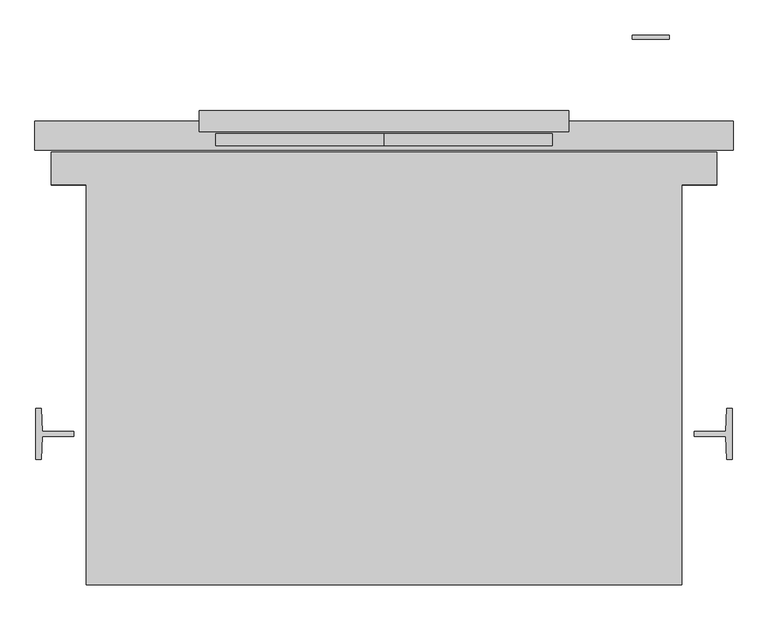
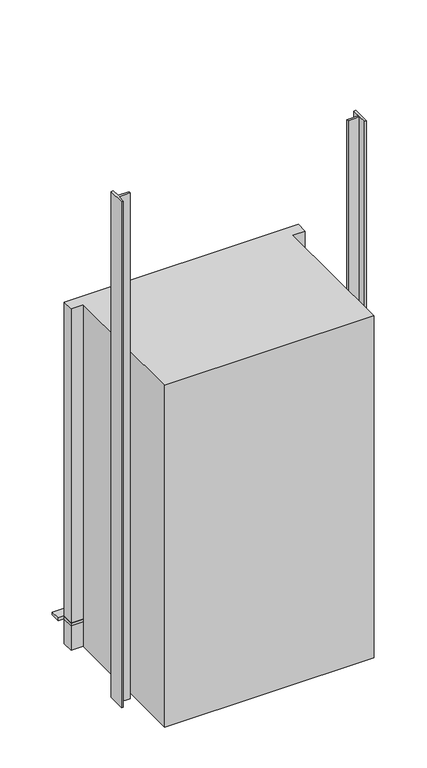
"""IFC4 building model written with IfcOpenShell, lengths in millimetres: proxy geometry, エレベーター_ガラス扉 : 6人乗."""

import ifcopenshell
import ifcopenshell.guid

model = None  # the IFC model being written
_history = None  # IfcOwnerHistory: only IFC2X3 demands one
_inside = {}  # id of a spatial element -> (the spatial element, [elements in it])
_under = {}  # id of a project, library or spatial element -> (it, [spatial elements below it])
_declared = {}  # id of a project -> (the project, [libraries it declares])
_typed = {}  # id of a type object -> (the type object, [elements of that type])
_made_of = {}  # id of a material, layer set ... -> (it, [elements and type objects made of it])


def new_model(schema):
    """Start an empty IFC model of exactly this schema.

    Asked for "IFC4X3", IfcOpenShell would pick the latest addendum, in which some entities
    have other attributes; the version numbers below select the first issue.
    IFC2X3 requires an IfcOwnerHistory on every rooted entity: one is made here for all.
    """
    global model, _history
    if schema == "IFC4X3":
        model = ifcopenshell.file(schema_version=(4, 3, 0, 0))
    else:
        model = ifcopenshell.file(schema=schema)
    _inside.clear()
    _under.clear()
    _declared.clear()
    _typed.clear()
    _made_of.clear()
    _history = None
    if model.schema == "IFC2X3":
        org = make("IfcOrganization", Name="unknown")
        user = make(
            "IfcPersonAndOrganization",
            ThePerson=make("IfcPerson", FamilyName="unknown"),
            TheOrganization=org,
        )
        app = make(
            "IfcApplication",
            ApplicationDeveloper=org,
            Version="unknown",
            ApplicationFullName="unknown",
            ApplicationIdentifier="unknown",
        )
        _history = make(
            "IfcOwnerHistory",
            OwningUser=user,
            OwningApplication=app,
            ChangeAction="ADDED",
            CreationDate=0,
        )
    return model


def make(cls, **values):
    """One entity of the class cls with the attributes given. An attribute that is None is left unset."""
    return model.create_entity(
        cls, **{name: value for name, value in values.items() if value is not None}
    )


def rooted(cls, **values):
    """An entity with a GlobalId (a new one), such as an element, a storey or a relation."""
    return make(cls, GlobalId=ifcopenshell.guid.new(), OwnerHistory=_history, **values)


def si_unit(unit_type, name, prefix=None):
    """IfcSIUnit, for example si_unit("LENGTHUNIT", "METRE", prefix="MILLI")."""
    return make("IfcSIUnit", UnitType=unit_type, Prefix=prefix, Name=name)


def assignment(units):
    """IfcUnitAssignment: the units of a project."""
    return None if units is None else make("IfcUnitAssignment", Units=units)


def point(xyz):
    """IfcCartesianPoint."""
    return None if xyz is None else make("IfcCartesianPoint", Coordinates=xyz)


def direction(xyz):
    """IfcDirection."""
    return None if xyz is None else make("IfcDirection", DirectionRatios=xyz)


def frame(location, z_axis=None, x_axis=None):
    """IfcAxis2Placement3D, a coordinate frame: its origin and axes. An axis left out is left unset."""
    return make(
        "IfcAxis2Placement3D",
        Location=point(location),
        Axis=direction(z_axis),
        RefDirection=direction(x_axis),
    )


def frame_2d(location, x_axis=None):
    """IfcAxis2Placement2D, a coordinate frame in the plane: its origin and x axis."""
    return make(
        "IfcAxis2Placement2D", Location=point(location), RefDirection=direction(x_axis)
    )


def origin():
    """The frame at (0, 0, 0) with its axes left unset."""
    return frame((0.0, 0.0, 0.0))


def origin_with_axes():
    """The frame at (0, 0, 0) with the z axis (0, 0, 1) and the x axis (1, 0, 0) written out."""
    return frame((0.0, 0.0, 0.0), z_axis=(0.0, 0.0, 1.0), x_axis=(1.0, 0.0, 0.0))


def place(relative_to, where):
    """IfcLocalPlacement: puts the frame where relative to a parent placement (None: the world)."""
    return make(
        "IfcLocalPlacement", PlacementRelTo=relative_to, RelativePlacement=where
    )


def context(
    kind, dimensions, precision=None, world=None, true_north=None, identifier=None
):
    """IfcGeometricRepresentationContext, for example the 3D "Model" context."""
    return make(
        "IfcGeometricRepresentationContext",
        ContextIdentifier=identifier,
        ContextType=kind,
        CoordinateSpaceDimension=dimensions,
        Precision=precision,
        WorldCoordinateSystem=world,
        TrueNorth=true_north,
    )


def project(units=None, contexts=None):
    """IfcProject with its units and contexts."""
    return rooted(
        "IfcProject",
        Name="project",
        RepresentationContexts=contexts,
        UnitsInContext=assignment(units),
    )


def spatial(cls, under=None, at=None, **own):
    """A site, building, storey or space (cls), placed at a placement, below another one or the project."""
    s = rooted(cls, ObjectPlacement=at, **own)
    if under is not None:
        _under.setdefault(under.id(), (under, []))[1].append(s)
    return s


def polyline(points):
    """IfcPolyline through the points."""
    return make("IfcPolyline", Points=[point(p) for p in points])


def circle_curve(where, radius):
    """IfcCircle in the frame where."""
    return make("IfcCircle", Position=where, Radius=radius)


def trimmed(basis, trim1, trim2, sense, master):
    """IfcTrimmedCurve: the piece of a basis curve between two trims."""
    return make(
        "IfcTrimmedCurve",
        BasisCurve=basis,
        Trim1=trim1,
        Trim2=trim2,
        SenseAgreement=sense,
        MasterRepresentation=master,
    )


def segment(curve, same_sense, transition):
    """IfcCompositeCurveSegment."""
    return make(
        "IfcCompositeCurveSegment",
        Transition=transition,
        SameSense=same_sense,
        ParentCurve=curve,
    )


def composite_curve(segments, self_intersect=None):
    """IfcCompositeCurve: segments joined end to end."""
    return make("IfcCompositeCurve", Segments=segments, SelfIntersect=self_intersect)


def outline(outer, holes=None, kind="AREA"):
    """IfcArbitraryClosedProfileDef: a profile drawn as a closed curve; with holes, ...WithVoids."""
    if holes is None:
        return make("IfcArbitraryClosedProfileDef", ProfileType=kind, OuterCurve=outer)
    return make(
        "IfcArbitraryProfileDefWithVoids",
        ProfileType=kind,
        OuterCurve=outer,
        InnerCurves=holes,
    )


def extrude(swept, where, along, depth):
    """IfcExtrudedAreaSolid: the profile swept, set in the frame where, extruded along a direction by depth."""
    return make(
        "IfcExtrudedAreaSolid",
        SweptArea=swept,
        Position=where,
        ExtrudedDirection=direction(along),
        Depth=depth,
    )


def faces_of(points, faces, orient=None, outer=None):
    """IfcFace entities. A face is a list of loops; a loop is a list of indices into points, from 0.

    orient and outer hold one flag for each loop. By default every Orientation is true, the
    first loop of a face is its IfcFaceOuterBound and the others are IfcFaceBound.
    """
    made = []
    for i, loops in enumerate(faces):
        bounds = []
        for j, loop in enumerate(loops):
            is_outer = j == 0 if outer is None else outer[i][j]
            bounds.append(
                make(
                    "IfcFaceOuterBound" if is_outer else "IfcFaceBound",
                    Bound=make("IfcPolyLoop", Polygon=[points[k] for k in loop]),
                    Orientation=True if orient is None else orient[i][j],
                )
            )
        made.append(make("IfcFace", Bounds=bounds))
    return made


def faceted_brep(points, faces, orient=None, outer=None, voids=None):
    """IfcFacetedBrep: a solid bounded by flat faces; with voids (closed shells), ...WithVoids."""
    shared = [point(p) for p in points]
    hull = make("IfcClosedShell", CfsFaces=faces_of(shared, faces, orient, outer))
    if voids is None:
        return make("IfcFacetedBrep", Outer=hull)
    return make(
        "IfcFacetedBrepWithVoids",
        Outer=hull,
        Voids=[
            make(cls, CfsFaces=faces_of(shared, fs, o, b)) for cls, fs, o, b in voids
        ],
    )


def shape(context_of_items, identifier, shape_type, items):
    """IfcShapeRepresentation: the items that make up one representation, for example the "Body"."""
    return make(
        "IfcShapeRepresentation",
        ContextOfItems=context_of_items,
        RepresentationIdentifier=identifier,
        RepresentationType=shape_type,
        Items=items,
    )


def source(mapping_origin, context_of_items, identifier, shape_type, items):
    """IfcRepresentationMap: a shape defined once, which mapped items show again and again."""
    return make(
        "IfcRepresentationMap",
        MappingOrigin=mapping_origin,
        MappedRepresentation=shape(context_of_items, identifier, shape_type, items),
    )


def transform(
    local_origin,
    x_axis=None,
    y_axis=None,
    z_axis=None,
    scale=None,
    scale2=None,
    scale3=None,
    uniform=True,
):
    """IfcCartesianTransformationOperator3D, or its non-uniform kind. x_axis, y_axis, z_axis: its Axis1, 2, 3."""
    if uniform:
        return make(
            "IfcCartesianTransformationOperator3D",
            Axis1=direction(x_axis),
            Axis2=direction(y_axis),
            LocalOrigin=point(local_origin),
            Scale=scale,
            Axis3=direction(z_axis),
        )
    return make(
        "IfcCartesianTransformationOperator3DnonUniform",
        Axis1=direction(x_axis),
        Axis2=direction(y_axis),
        LocalOrigin=point(local_origin),
        Scale=scale,
        Axis3=direction(z_axis),
        Scale2=scale2,
        Scale3=scale3,
    )


def mapped(mapping_source, mapping_target):
    """IfcMappedItem: shows the shape of a source again, moved by a transform."""
    return make(
        "IfcMappedItem", MappingSource=mapping_source, MappingTarget=mapping_target
    )


def made_of(thing, what):
    """Note that an element or type object is made of a material, layer set ...; save() writes the relation."""
    if what is not None:
        _made_of.setdefault(what.id(), (what, []))[1].append(thing)
    return thing


def element(
    cls,
    number,
    at=None,
    inside=None,
    cuts=None,
    type_object=None,
    material=None,
    context=None,
    identifier="Body",
    shape_type=None,
    held_by="IfcProductDefinitionShape",
    body=None,
    shapes=None,
    **own,
):
    """One element of the class cls, such as IfcWall. Its Tag is "e" and its number.

    at: its placement. inside: the storey or other place that contains it. cuts: it is an
    opening in that element (IfcRelVoidsElement). A single representation is given by context,
    identifier, shape_type and body (its items); several are given by shapes. held_by: the class
    of the entity that holds the representations. save() writes the other relations.
    """
    e = rooted(cls, Tag="e%d" % number, ObjectPlacement=at, **own)
    if body is not None:
        shapes = [shape(context, identifier, shape_type, body)]
    if shapes is not None:
        e.Representation = make(held_by, Representations=shapes)
    if inside is not None:
        _inside.setdefault(inside.id(), (inside, []))[1].append(e)
    if cuts is not None:
        rooted(
            "IfcRelVoidsElement", RelatingBuildingElement=cuts, RelatedOpeningElement=e
        )
    if type_object is not None:
        _typed.setdefault(type_object.id(), (type_object, []))[1].append(e)
    return made_of(e, material)


def aggregate(whole, parts):
    """IfcRelAggregates: a whole, such as a stair, and the parts it consists of."""
    return rooted("IfcRelAggregates", RelatingObject=whole, RelatedObjects=parts)


def save(model, path):
    """Write the relations noted so far, then the file.

    IfcRelAggregates (storeys below a building ...), IfcRelContainedInSpatialStructure (elements
    in a storey), IfcRelDefinesByType, IfcRelAssociatesMaterial and IfcRelDeclares: one each for
    every whole, place, type object, material and project.
    """
    for whole, parts in _under.values():
        aggregate(whole, parts)
    for where, things in _inside.values():
        rooted(
            "IfcRelContainedInSpatialStructure",
            RelatedElements=things,
            RelatingStructure=where,
        )
    for kind, things in _typed.values():
        rooted("IfcRelDefinesByType", RelatedObjects=things, RelatingType=kind)
    for what, things in _made_of.values():
        rooted("IfcRelAssociatesMaterial", RelatedObjects=things, RelatingMaterial=what)
    for by, libraries in _declared.values():
        rooted("IfcRelDeclares", RelatingContext=by, RelatedDefinitions=libraries)
    model.write(path)


def specialty_equipment_c2b478e0(model_context):
    return source(origin(), model_context, "Body", "SolidModel", [
        extrude(outline(composite_curve([segment(polyline([(1430.0, 750.0), (1225.0, 750.0)]), True, "CONTINUOUS"), segment(trimmed(circle_curve(frame_2d((1225.0, 775.0)), 25.0), [point((1225.0, 750.0))], [point((1225.0, 800.0))], False, "CARTESIAN"), True, "CONTINUOUS"), segment(polyline([(1225.0, 800.0), (1430.0, 800.0), (1430.0, 750.0)]), True, "CONTINUOUS")], self_intersect=False)), frame((0.0, 100.0, 0.0), z_axis=(0.0, 1.0, 0.0), x_axis=(0.0, 0.0, 1.0)), (0.0, 0.0, 1.0), 10.0),
        extrude(outline(polyline([(790.0, 110.0), (790.0, 100.0), (760.0, 100.0), (760.0, 110.0), (790.0, 110.0)])), frame((0.0, 0.0, 1120.0), z_axis=(0.0, 0.0, 1.0), x_axis=(1.0, 0.0, 0.0)), (0.0, 0.0, 1.0), 30.0),
        extrude(outline(polyline([(790.0, 110.0), (790.0, 100.0), (760.0, 100.0), (760.0, 110.0), (790.0, 110.0)])), frame((0.0, 0.0, 1060.0), z_axis=(0.0, 0.0, 1.0), x_axis=(1.0, 0.0, 0.0)), (0.0, 0.0, 1.0), 30.0),
        extrude(outline(composite_curve([segment(polyline([(970.0, 730.0), (970.0, 820.0), (1430.0, 820.0), (1430.0, 800.0), (1225.0, 800.0)]), True, "CONTINUOUS"), segment(trimmed(circle_curve(frame_2d((1225.0, 775.0)), 25.0), [point((1225.0, 800.0))], [point((1225.0, 750.0))], True, "CARTESIAN"), True, "CONTINUOUS"), segment(polyline([(1225.0, 750.0), (1430.0, 750.0), (1430.0, 730.0), (970.0, 730.0)]), True, "CONTINUOUS")], self_intersect=False), holes=[polyline([(1150.0, 760.0), (1150.0, 790.0), (1120.0, 790.0), (1120.0, 760.0), (1150.0, 760.0)]), polyline([(1090.0, 760.0), (1090.0, 790.0), (1060.0, 790.0), (1060.0, 760.0), (1090.0, 760.0)])]), frame((0.0, 100.0, 0.0), z_axis=(0.0, 1.0, 0.0), x_axis=(0.0, 0.0, 1.0)), (0.0, 0.0, 1.0), 10.0),
        extrude(outline(polyline([(820.0, 110.0), (820.0, 100.0), (730.0, 100.0), (730.0, 110.0), (820.0, 110.0)])), frame((0.0, 0.0, 1430.0), z_axis=(0.0, 0.0, 1.0), x_axis=(1.0, 0.0, 0.0)), (0.0, 0.0, 1.0), 20.0),
        extrude(outline(polyline([(820.0, 110.0), (820.0, 100.0), (730.0, 100.0), (730.0, 110.0), (820.0, 110.0)])), frame((0.0, 0.0, 950.0), z_axis=(0.0, 0.0, 1.0), x_axis=(1.0, 0.0, 0.0)), (0.0, 0.0, 1.0), 20.0),
        extrude(outline(polyline([(25.0, -142.5), (25.0, -147.5), (-175.0, -147.5), (-175.0, -142.5), (25.0, -142.5)])), frame((0.0, 0.0, 1000.0), z_axis=(0.0, 0.0, 1.0), x_axis=(1.0, 0.0, 0.0)), (0.0, 0.0, 1.0), 900.0),
        extrude(outline(polyline([(225.0, -147.5), (225.0, -142.5), (425.0, -142.5), (425.0, -147.5), (225.0, -147.5)])), frame((0.0, 0.0, 1000.0), z_axis=(0.0, 0.0, 1.0), x_axis=(1.0, 0.0, 0.0)), (0.0, 0.0, 1.0), 900.0),
        extrude(outline(polyline([(-175.0, -237.5), (-175.0, -232.5), (25.0, -232.5), (25.0, -237.5), (-175.0, -237.5)])), frame((0.0, 0.0, 1000.0), z_axis=(0.0, 0.0, 1.0), x_axis=(1.0, 0.0, 0.0)), (0.0, 0.0, 1.0), 900.0),
        extrude(outline(polyline([(425.0, -232.5), (425.0, -237.5), (225.0, -237.5), (225.0, -232.5), (425.0, -232.5)])), frame((0.0, 0.0, 1000.0), z_axis=(0.0, 0.0, 1.0), x_axis=(1.0, 0.0, 0.0)), (0.0, 0.0, 1.0), 900.0),
        extrude(outline(polyline([(-685.0, -255.0), (-685.0, -175.0), (935.0, -175.0), (935.0, -255.0), (-685.0, -255.0)])), frame((0.0, 0.0, -20.0), z_axis=(0.0, 0.0, 1.0), x_axis=(1.0, 0.0, 0.0)), (0.0, 0.0, 1.0), 20.0),
        extrude(outline(polyline([(975.0, -170.0), (-725.0, -170.0), (-725.0, -100.0), (975.0, -100.0), (975.0, -170.0)])), frame((0.0, 0.0, -20.0), z_axis=(0.0, 0.0, 1.0), x_axis=(1.0, 0.0, 0.0)), (0.0, 0.0, 1.0), 20.0),
        extrude(outline(polyline([(2125.0, 125.5), (0.0, 125.5), (0.0, 535.0), (2125.0, 535.0), (2125.0, 125.5)]), holes=[polyline([(1900.0, 425.0), (1000.0, 425.0), (1000.0, 225.0), (1900.0, 225.0), (1900.0, 425.0)])]), frame((0.0, -160.0, 0.0), z_axis=(0.0, 1.0, 0.0), x_axis=(0.0, 0.0, 1.0)), (0.0, 0.0, 1.0), 30.0),
        extrude(outline(polyline([(2125.0, -285.0), (0.0, -285.0), (0.0, 124.5), (2125.0, 124.5), (2125.0, -285.0)]), holes=[polyline([(1900.0, 25.0), (1000.0, 25.0), (1000.0, -175.0), (1900.0, -175.0), (1900.0, 25.0)])]), frame((0.0, -160.0, 0.0), z_axis=(0.0, 1.0, 0.0), x_axis=(0.0, 0.0, 1.0)), (0.0, 0.0, 1.0), 30.0),
        extrude(outline(polyline([(2125.0, -285.0), (0.0, -285.0), (0.0, 124.5), (2125.0, 124.5), (2125.0, -285.0)]), holes=[polyline([(1900.0, 25.0), (1000.0, 25.0), (1000.0, -175.0), (1900.0, -175.0), (1900.0, 25.0)])]), frame((0.0, -250.0, 0.0), z_axis=(0.0, 1.0, 0.0), x_axis=(0.0, 0.0, 1.0)), (0.0, 0.0, 1.0), 30.0),
        extrude(outline(polyline([(2125.0, 125.5), (0.0, 125.5), (0.0, 535.0), (2125.0, 535.0), (2125.0, 125.5)]), holes=[polyline([(1900.0, 425.0), (1000.0, 425.0), (1000.0, 225.0), (1900.0, 225.0), (1900.0, 425.0)])]), frame((0.0, -250.0, 0.0), z_axis=(0.0, 1.0, 0.0), x_axis=(0.0, 0.0, 1.0)), (0.0, 0.0, 1.0), 30.0),
        extrude(outline(polyline([(-630.0, -869.0), (-707.5, -869.0), (-710.0, -925.0), (-722.5, -925.0), (-722.5, -800.0), (-710.0, -800.0), (-707.5, -856.0), (-630.0, -856.0), (-630.0, -869.0)])), frame((0.0, 0.0, -200.0), z_axis=(0.0, 0.0, 1.0), x_axis=(1.0, 0.0, 0.0)), (0.0, 0.0, 1.0), 3700.0),
        extrude(outline(polyline([(880.0, -869.0), (880.0, -856.0), (957.5, -856.0), (960.0, -800.0), (972.5, -800.0), (972.5, -925.0), (960.0, -925.0), (957.5, -869.0), (880.0, -869.0)])), frame((0.0, 0.0, -200.0), z_axis=(0.0, 0.0, 1.0), x_axis=(1.0, 0.0, 0.0)), (0.0, 0.0, 1.0), 3700.0),
        extrude(outline(polyline([(-521.291353, -469.9359647), (-340.054725, -385.3588717), (-337.9402977, -389.8897874), (-519.1769257, -474.4668804), (-521.291353, -469.9359647)])), origin_with_axes(), (0.0, 0.0, 1.0), 2260.0),
        extrude(outline(polyline([(-298.6470648, -355.0), (-275.0, -355.0), (-575.0, -495.0), (-585.0, -495.0), (-585.0, -488.6313698), (-298.6470648, -355.0)])), origin_with_axes(), (0.0, 0.0, 1.0), 2260.0),
        extrude(outline(polyline([(525.0, -355.0), (548.6470648, -355.0), (835.0, -488.6313698), (835.0, -495.0), (825.0, -495.0), (525.0, -355.0)])), origin_with_axes(), (0.0, 0.0, 1.0), 2260.0),
        extrude(outline(polyline([(-298.6470648, -355.0), (-285.0, -348.6313698), (-285.0, -345.0), (535.0, -345.0), (535.0, -348.6313698), (548.6470648, -355.0), (-298.6470648, -355.0)])), frame((0.0, 0.0, 2100.0), z_axis=(0.0, 0.0, 1.0), x_axis=(1.0, 0.0, 0.0)), (0.0, 0.0, 1.0), 160.0),
        extrude(outline(polyline([(-585.0, -488.6313698), (-285.0, -348.6313698), (-285.0, -255.0), (535.0, -255.0), (535.0, -348.6313698), (835.0, -488.6313698), (835.0, -1215.0), (-585.0, -1215.0), (-585.0, -488.6313698)])), frame((0.0, 0.0, 2260.0), z_axis=(0.0, 0.0, 1.0), x_axis=(1.0, 0.0, 0.0)), (0.0, 0.0, 1.0), 10.0),
        extrude(outline(polyline([(-575.0, -1205.0), (825.0, -1205.0), (825.0, -495.0), (835.0, -495.0), (835.0, -1215.0), (-585.0, -1215.0), (-585.0, -495.0), (-575.0, -495.0), (-575.0, -1205.0)])), frame((0.0, 0.0, 80.0), z_axis=(0.0, 0.0, 1.0), x_axis=(1.0, 0.0, 0.0)), (0.0, 0.0, 1.0), 2180.0),
        extrude(outline(polyline([(-575.0, -1205.0), (-575.0, -495.0), (-275.0, -355.0), (-275.0, -255.0), (525.0, -255.0), (525.0, -355.0), (825.0, -495.0), (825.0, -1205.0), (-575.0, -1205.0)])), frame((0.0, 0.0, -200.0), z_axis=(0.0, 0.0, 1.0), x_axis=(1.0, 0.0, 0.0)), (0.0, 0.0, 1.0), 200.0),
        extrude(outline(polyline([(-575.0, -495.0), (-575.0, -1205.0), (825.0, -1205.0), (825.0, -495.0), (835.0, -495.0), (835.0, -1215.0), (-585.0, -1215.0), (-585.0, -495.0), (-575.0, -495.0)])), origin_with_axes(), (0.0, 0.0, 1.0), 80.0),
        extrude(outline(polyline([(0.0, 575.0), (2150.0, 575.0), (2150.0, -325.0), (0.0, -325.0), (0.0, -275.0), (2100.0, -275.0), (2100.0, 525.0), (0.0, 525.0), (0.0, 575.0)])), frame((0.0, -125.0, 0.0), z_axis=(0.0, 1.0, 0.0), x_axis=(0.0, 0.0, 1.0)), (0.0, 0.0, 1.0), 50.0),
        faceted_brep([(850.0, -255.0, 2300.0), (935.0, -255.0, 2300.0), (935.0, -175.0, 2300.0), (-685.0, -175.0, 2300.0), (-685.0, -255.0, 2300.0), (-600.0, -255.0, 2300.0), (-600.0, -1230.0, 2300.0), (850.0, -1230.0, 2300.0), (850.0, -255.0, -200.0), (850.0, -1230.0, -200.0), (-600.0, -1230.0, -200.0), (-600.0, -255.0, -200.0), (-685.0, -255.0, -200.0), (-685.0, -175.0, -200.0), (935.0, -175.0, -200.0), (935.0, -255.0, -200.0), (535.0, -175.0, -20.0), (535.0, -175.0, 2100.0), (-285.0, -175.0, 2100.0), (-285.0, -175.0, -20.0), (-285.0, -348.6313698, 2270.0), (-285.0, -345.0, 2270.0), (535.0, -345.0, 2270.0), (535.0, -348.6313698, 2270.0), (835.0, -488.6313698, 2270.0), (835.0, -1215.0, 2270.0), (-585.0, -1215.0, 2270.0), (-585.0, -488.6313698, 2270.0), (-285.0, -348.6313698, -20.0), (-585.0, -488.6313698, -20.0), (-585.0, -1215.0, -20.0), (835.0, -1215.0, -20.0), (835.0, -488.6313698, -20.0), (535.0, -348.6313698, -20.0), (535.0, -345.0, 2100.0), (-285.0, -345.0, 2100.0)], [[[0, 1, 2, 3, 4, 5, 6, 7]], [[8, 9, 10, 11, 12, 13, 14, 15]], [[7, 9, 8, 0]], [[6, 10, 9, 7]], [[5, 11, 10, 6]], [[4, 12, 11, 5]], [[3, 13, 12, 4]], [[2, 14, 13, 3], [16, 17, 18, 19]], [[1, 15, 14, 2]], [[0, 8, 15, 1]], [[20, 21, 22, 23, 24, 25, 26, 27]], [[16, 19, 28, 29, 30, 31, 32, 33]], [[33, 23, 22, 34, 17, 16]], [[23, 33, 32, 24]], [[24, 32, 31, 25]], [[25, 31, 30, 26]], [[26, 30, 29, 27]], [[27, 29, 28, 20]], [[19, 18, 35, 21, 20, 28]], [[35, 18, 17, 34]], [[34, 22, 21, 35]]]),
    ])


if __name__ == "__main__":
    model = new_model("IFC4")
    model_context = context("Model", 3, world=origin())
    ifc_project = project(units=[si_unit("LENGTHUNIT", "METRE", prefix="MILLI")], contexts=[model_context])
    site = spatial("IfcSite", under=ifc_project)
    building = spatial("IfcBuilding", under=site)
    placement = place(None, origin())
    specialty_equipment_shape = specialty_equipment_c2b478e0(model_context)
    element("IfcBuildingElementProxy", 1, Name="エレベーター_ガラス扉 : 6人乗", ObjectType="エレベーター_ガラス扉 : 6人乗", at=placement, inside=building, context=model_context, shape_type="MappedRepresentation", body=[
        mapped(specialty_equipment_shape, transform((0.0, 0.0, 0.0), x_axis=(1.0, 0.0, 0.0), y_axis=(0.0, 1.0, 0.0), z_axis=(0.0, 0.0, 1.0))),
    ])
    save(model, "model.ifc")
